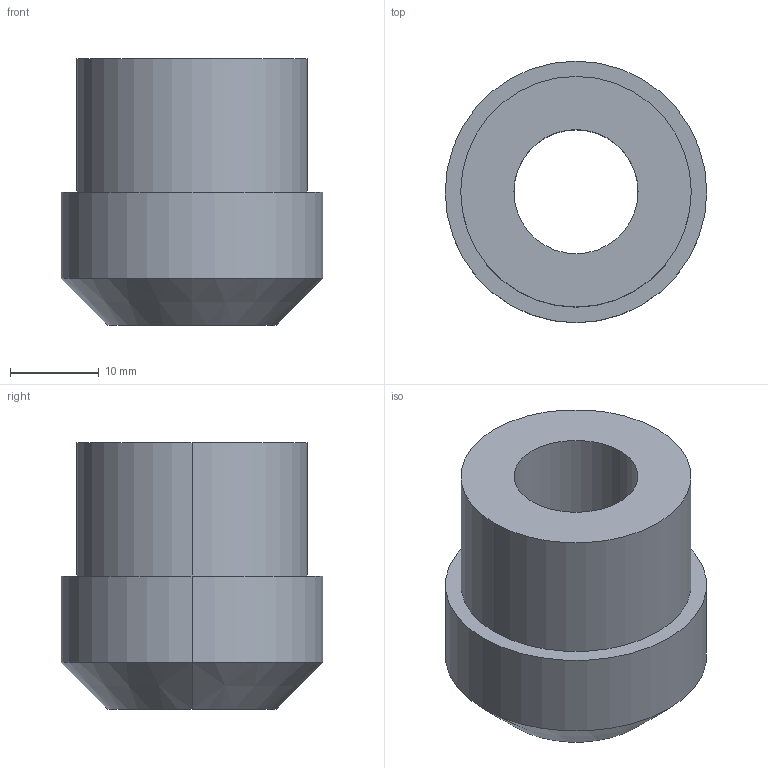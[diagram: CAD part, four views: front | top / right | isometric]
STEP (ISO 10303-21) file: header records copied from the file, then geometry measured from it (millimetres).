
FILE_DESCRIPTION(/* description */ (''),/* implementation_level */ '2;1');
FILE_NAME(/* name */ 'CWC-CY0020-P99_Cylinder Lower Bearing Holder.stp',/* time_stamp */ '2026-02-19T12:06:56+01:00',/* author */ (''),/* organization */ (''),/* preprocessor_version */ 'ST-DEVELOPER v18.1',/* originating_system */ 'SIEMENS PLM Software NX 1988',/* authorisation */ '');
FILE_SCHEMA (('AUTOMOTIVE_DESIGN { 1 0 10303 214 3 1 1 1 }'));
Length unit declared in the file: millimetre
Products named in the file (1): anto80DCB5E9ljtz
Bounding box: 29.5 x 29.5 x 30 mm (x, y, z)
Volume: 12286.5 mm3; surface area: 4698.2 mm2
Topology: 1 solids, 1 shells, 14 faces, 28 edges, 18 vertices
Faces by surface type: cylinder 8, plane 4, cone 2
Entity records: 410 total; most frequent: DIRECTION 76, CARTESIAN_POINT 61, ORIENTED_EDGE 56, AXIS2_PLACEMENT_3D 33, EDGE_CURVE 28, EDGE_LOOP 18, CIRCLE 18, VERTEX_POINT 18
